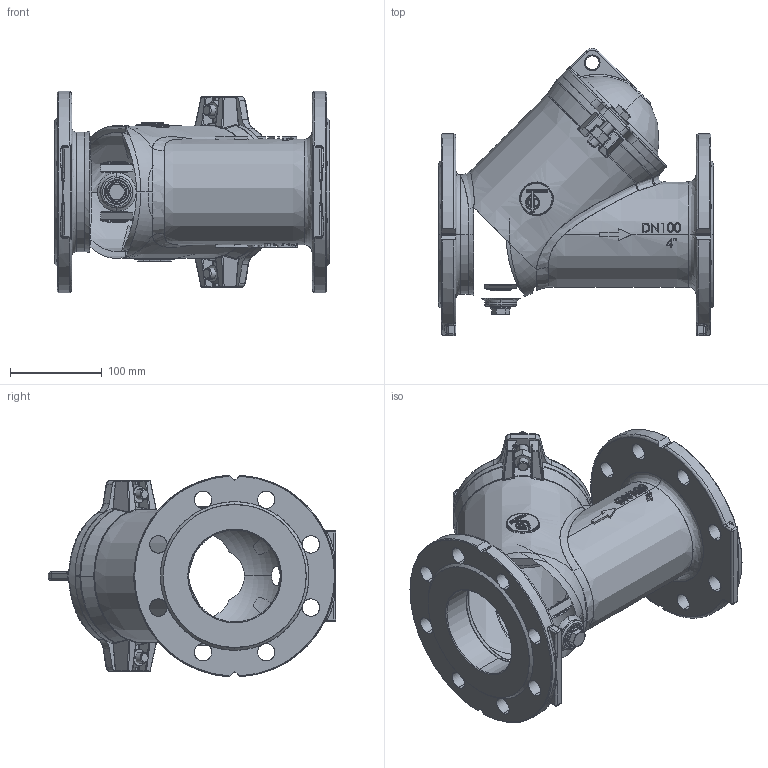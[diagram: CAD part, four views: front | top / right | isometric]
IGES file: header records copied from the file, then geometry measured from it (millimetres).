
Start section: SolidWorks IGES file using analytic representation for surfaces
Global section: file name: H:\BE BIBLIOTHEQUE 3D\BE SECTION 04 - CLAPETS_FILTRES\CBL - Clapet à boule\CBL4240\FSM\DIFFUSION INTERNET\DN 100\642000013-1.IGS; native system: SolidWorks 2017; preprocessor: SolidWorks 2017; author: l.refnou; date: 180216.110112; units: millimetre
Bounding box: 300 x 313 x 219.67 mm (x, y, z)
Surface area: 454102 mm2 (no closed solid volume)
Topology: 0 solids, 0 shells, 880 faces, 12688 edges, 12652 vertices
Faces by surface type: bspline 540, revolution 340
